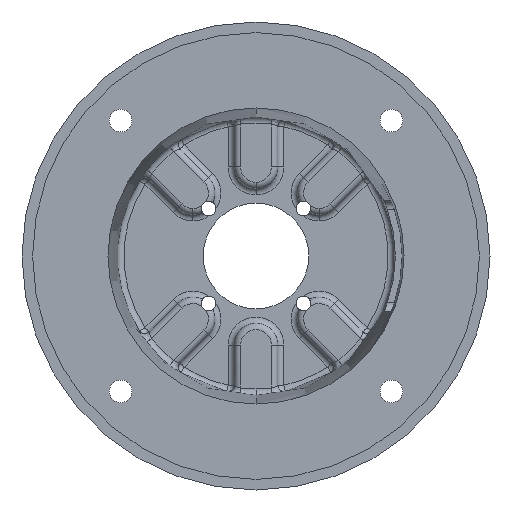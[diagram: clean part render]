
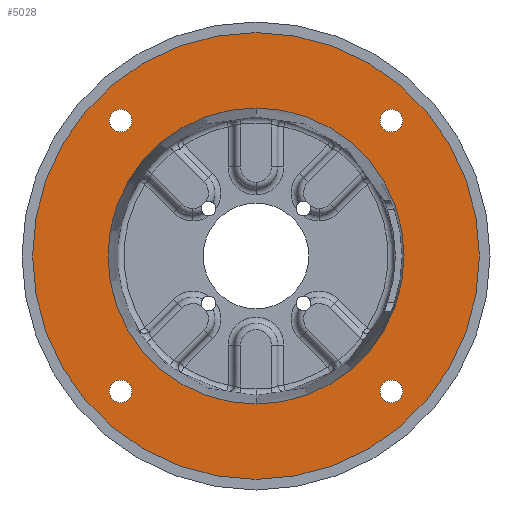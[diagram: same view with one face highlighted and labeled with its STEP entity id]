
A CAD part, front view. The second image highlights one B-rep face of the part: STEP entity #5028.
In plain terms, the highlighted planar face has unit normal (0, -1, 0).
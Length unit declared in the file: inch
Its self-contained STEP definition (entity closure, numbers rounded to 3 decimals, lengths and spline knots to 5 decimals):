
#49 = CIRCLE ( 'NONE', #1810, 0.26562 ) ;
#222 = CARTESIAN_POINT ( 'NONE',  ( -3.18198, 0.18, -2.91636 ) ) ;
#333 = EDGE_CURVE ( 'NONE', #11059, #13967, #1399, .T. ) ;
#339 = CARTESIAN_POINT ( 'NONE',  ( 0., 0.18, -5.2505 ) ) ;
#757 = VERTEX_POINT ( 'NONE', #5900 ) ;
#805 = CARTESIAN_POINT ( 'NONE',  ( -3.18198, 0.18, -3.44761 ) ) ;
#867 = CIRCLE ( 'NONE', #13317, 0.26562 ) ;
#1004 = DIRECTION ( 'NONE',  ( 0., 0., -1. ) ) ;
#1023 = DIRECTION ( 'NONE',  ( 0., -1., 0. ) ) ;
#1035 = CARTESIAN_POINT ( 'NONE',  ( 0., 0.18, 0. ) ) ;
#1041 = CARTESIAN_POINT ( 'NONE',  ( -3.18198, 0.18, -3.18198 ) ) ;
#1091 = CARTESIAN_POINT ( 'NONE',  ( 0., 0.18, 3.47973 ) ) ;
#1136 = FACE_BOUND ( 'NONE', #11776, .T. ) ;
#1199 = CARTESIAN_POINT ( 'NONE',  ( 3.18198, 0.18, 3.18198 ) ) ;
#1242 = DIRECTION ( 'NONE',  ( 0., -1., 0. ) ) ;
#1355 = CIRCLE ( 'NONE', #7350, 5.2505 ) ;
#1399 = CIRCLE ( 'NONE', #6348, 0.26562 ) ;
#1617 = EDGE_CURVE ( 'NONE', #13967, #11059, #867, .T. ) ;
#1810 = AXIS2_PLACEMENT_3D ( 'NONE', #5862, #13515, #6983 ) ;
#1980 = DIRECTION ( 'NONE',  ( 0., -1., 0. ) ) ;
#2080 = CARTESIAN_POINT ( 'NONE',  ( 3.18198, 0.18, 3.44761 ) ) ;
#2186 = DIRECTION ( 'NONE',  ( 0., 0., -1. ) ) ;
#2352 = DIRECTION ( 'NONE',  ( 0., 0., -1. ) ) ;
#2380 = CIRCLE ( 'NONE', #5647, 0.26562 ) ;
#2462 = DIRECTION ( 'NONE',  ( 0., 0., -1. ) ) ;
#2900 = CARTESIAN_POINT ( 'NONE',  ( 3.18198, 0.18, 3.18198 ) ) ;
#3450 = PLANE ( 'NONE',  #9696 ) ;
#3559 = ORIENTED_EDGE ( 'NONE', *, *, #11848, .T. ) ;
#3645 = CARTESIAN_POINT ( 'NONE',  ( -3.18198, 0.18, -3.18198 ) ) ;
#3966 = ORIENTED_EDGE ( 'NONE', *, *, #4374, .F. ) ;
#4030 = CIRCLE ( 'NONE', #6514, 0.26562 ) ;
#4043 = CARTESIAN_POINT ( 'NONE',  ( 3.18198, 0.18, 2.91636 ) ) ;
#4050 = DIRECTION ( 'NONE',  ( 0., 0., -1. ) ) ;
#4374 = EDGE_CURVE ( 'NONE', #10073, #6825, #11615, .T. ) ;
#4552 = DIRECTION ( 'NONE',  ( 0., -1., 0. ) ) ;
#4794 = ORIENTED_EDGE ( 'NONE', *, *, #333, .F. ) ;
#4836 = ORIENTED_EDGE ( 'NONE', *, *, #14123, .F. ) ;
#4970 = CARTESIAN_POINT ( 'NONE',  ( 3.18198, 0.18, -3.18198 ) ) ;
#5028 = ADVANCED_FACE ( 'NONE', ( #10065, #7164, #1136, #12629, #9722, #6817 ), #3450, .T. ) ;
#5139 = ORIENTED_EDGE ( 'NONE', *, *, #13878, .F. ) ;
#5192 = AXIS2_PLACEMENT_3D ( 'NONE', #8680, #1980, #9784 ) ;
#5293 = DIRECTION ( 'NONE',  ( 0., -1., 0. ) ) ;
#5647 = AXIS2_PLACEMENT_3D ( 'NONE', #2900, #10674, #4050 ) ;
#5736 = DIRECTION ( 'NONE',  ( 0., 0., -1. ) ) ;
#5757 = VERTEX_POINT ( 'NONE', #2080 ) ;
#5827 = AXIS2_PLACEMENT_3D ( 'NONE', #11875, #5293, #12973 ) ;
#5862 = CARTESIAN_POINT ( 'NONE',  ( 3.18198, 0.18, -3.18198 ) ) ;
#5900 = CARTESIAN_POINT ( 'NONE',  ( 3.18198, 0.18, -2.91636 ) ) ;
#6110 = DIRECTION ( 'NONE',  ( 0., 0., -1. ) ) ;
#6139 = AXIS2_PLACEMENT_3D ( 'NONE', #11148, #4552, #12239 ) ;
#6333 = CIRCLE ( 'NONE', #13924, 0.26562 ) ;
#6336 = CARTESIAN_POINT ( 'NONE',  ( 0., 0.18, 0. ) ) ;
#6348 = AXIS2_PLACEMENT_3D ( 'NONE', #1041, #1023, #1004 ) ;
#6514 = AXIS2_PLACEMENT_3D ( 'NONE', #1199, #9036, #2352 ) ;
#6615 = ORIENTED_EDGE ( 'NONE', *, *, #7560, .T. ) ;
#6817 = FACE_BOUND ( 'NONE', #13188, .T. ) ;
#6822 = CARTESIAN_POINT ( 'NONE',  ( 3.18198, 0.18, -3.44761 ) ) ;
#6825 = VERTEX_POINT ( 'NONE', #14402 ) ;
#6983 = DIRECTION ( 'NONE',  ( 0., 0., -1. ) ) ;
#7128 = VERTEX_POINT ( 'NONE', #8432 ) ;
#7164 = FACE_BOUND ( 'NONE', #12807, .T. ) ;
#7307 = VERTEX_POINT ( 'NONE', #1091 ) ;
#7350 = AXIS2_PLACEMENT_3D ( 'NONE', #7993, #1242, #9066 ) ;
#7456 = DIRECTION ( 'NONE',  ( 0., 0., -1. ) ) ;
#7560 = EDGE_CURVE ( 'NONE', #10715, #7128, #1355, .T. ) ;
#7704 = EDGE_CURVE ( 'NONE', #757, #9681, #6333, .T. ) ;
#7716 = AXIS2_PLACEMENT_3D ( 'NONE', #6336, #13981, #7456 ) ;
#7993 = CARTESIAN_POINT ( 'NONE',  ( 0., 0.18, 0. ) ) ;
#8291 = EDGE_CURVE ( 'NONE', #8663, #5757, #4030, .T. ) ;
#8432 = CARTESIAN_POINT ( 'NONE',  ( 0., 0.18, 5.2505 ) ) ;
#8524 = CIRCLE ( 'NONE', #7716, 3.47973 ) ;
#8663 = VERTEX_POINT ( 'NONE', #4043 ) ;
#8664 = VERTEX_POINT ( 'NONE', #10668 ) ;
#8680 = CARTESIAN_POINT ( 'NONE',  ( 0., 0.18, 0. ) ) ;
#8715 = CIRCLE ( 'NONE', #5192, 5.2505 ) ;
#8754 = ORIENTED_EDGE ( 'NONE', *, *, #1617, .F. ) ;
#8876 = DIRECTION ( 'NONE',  ( 0., 1., 0. ) ) ;
#8900 = EDGE_CURVE ( 'NONE', #7128, #10715, #8715, .T. ) ;
#9036 = DIRECTION ( 'NONE',  ( 0., -1., 0. ) ) ;
#9066 = DIRECTION ( 'NONE',  ( 0., 0., -1. ) ) ;
#9196 = EDGE_LOOP ( 'NONE', ( #3966, #4836 ) ) ;
#9681 = VERTEX_POINT ( 'NONE', #6822 ) ;
#9696 = AXIS2_PLACEMENT_3D ( 'NONE', #11202, #12299, #5736 ) ;
#9722 = FACE_OUTER_BOUND ( 'NONE', #12147, .T. ) ;
#9784 = DIRECTION ( 'NONE',  ( 0., 0., -1. ) ) ;
#9931 = ORIENTED_EDGE ( 'NONE', *, *, #7704, .F. ) ;
#10065 = FACE_BOUND ( 'NONE', #9196, .T. ) ;
#10073 = VERTEX_POINT ( 'NONE', #13072 ) ;
#10668 = CARTESIAN_POINT ( 'NONE',  ( 0., 0.18, -3.47973 ) ) ;
#10674 = DIRECTION ( 'NONE',  ( 0., -1., 0. ) ) ;
#10715 = VERTEX_POINT ( 'NONE', #339 ) ;
#10724 = CIRCLE ( 'NONE', #11302, 3.47973 ) ;
#11059 = VERTEX_POINT ( 'NONE', #222 ) ;
#11148 = CARTESIAN_POINT ( 'NONE',  ( -3.18198, 0.18, 3.18198 ) ) ;
#11202 = CARTESIAN_POINT ( 'NONE',  ( 0., 0.18, 0. ) ) ;
#11216 = ORIENTED_EDGE ( 'NONE', *, *, #8900, .T. ) ;
#11302 = AXIS2_PLACEMENT_3D ( 'NONE', #1035, #8876, #2186 ) ;
#11349 = ORIENTED_EDGE ( 'NONE', *, *, #12131, .F. ) ;
#11615 = CIRCLE ( 'NONE', #5827, 0.26562 ) ;
#11776 = EDGE_LOOP ( 'NONE', ( #11349, #9931 ) ) ;
#11848 = EDGE_CURVE ( 'NONE', #8664, #7307, #10724, .T. ) ;
#11875 = CARTESIAN_POINT ( 'NONE',  ( -3.18198, 0.18, 3.18198 ) ) ;
#12097 = CIRCLE ( 'NONE', #6139, 0.26562 ) ;
#12131 = EDGE_CURVE ( 'NONE', #9681, #757, #49, .T. ) ;
#12147 = EDGE_LOOP ( 'NONE', ( #6615, #11216 ) ) ;
#12239 = DIRECTION ( 'NONE',  ( 0., 0., -1. ) ) ;
#12256 = ORIENTED_EDGE ( 'NONE', *, *, #8291, .F. ) ;
#12299 = DIRECTION ( 'NONE',  ( 0., -1., 0. ) ) ;
#12459 = EDGE_LOOP ( 'NONE', ( #8754, #4794 ) ) ;
#12629 = FACE_BOUND ( 'NONE', #12459, .T. ) ;
#12672 = DIRECTION ( 'NONE',  ( 0., -1., 0. ) ) ;
#12807 = EDGE_LOOP ( 'NONE', ( #12256, #5139 ) ) ;
#12973 = DIRECTION ( 'NONE',  ( 0., 0., -1. ) ) ;
#13072 = CARTESIAN_POINT ( 'NONE',  ( -3.18198, 0.18, 2.91636 ) ) ;
#13188 = EDGE_LOOP ( 'NONE', ( #3559, #13876 ) ) ;
#13317 = AXIS2_PLACEMENT_3D ( 'NONE', #3645, #13582, #2462 ) ;
#13477 = EDGE_CURVE ( 'NONE', #7307, #8664, #8524, .T. ) ;
#13515 = DIRECTION ( 'NONE',  ( 0., -1., 0. ) ) ;
#13582 = DIRECTION ( 'NONE',  ( 0., -1., 0. ) ) ;
#13876 = ORIENTED_EDGE ( 'NONE', *, *, #13477, .T. ) ;
#13878 = EDGE_CURVE ( 'NONE', #5757, #8663, #2380, .T. ) ;
#13924 = AXIS2_PLACEMENT_3D ( 'NONE', #4970, #12672, #6110 ) ;
#13967 = VERTEX_POINT ( 'NONE', #805 ) ;
#13981 = DIRECTION ( 'NONE',  ( 0., 1., 0. ) ) ;
#14123 = EDGE_CURVE ( 'NONE', #6825, #10073, #12097, .T. ) ;
#14402 = CARTESIAN_POINT ( 'NONE',  ( -3.18198, 0.18, 3.44761 ) ) ;
